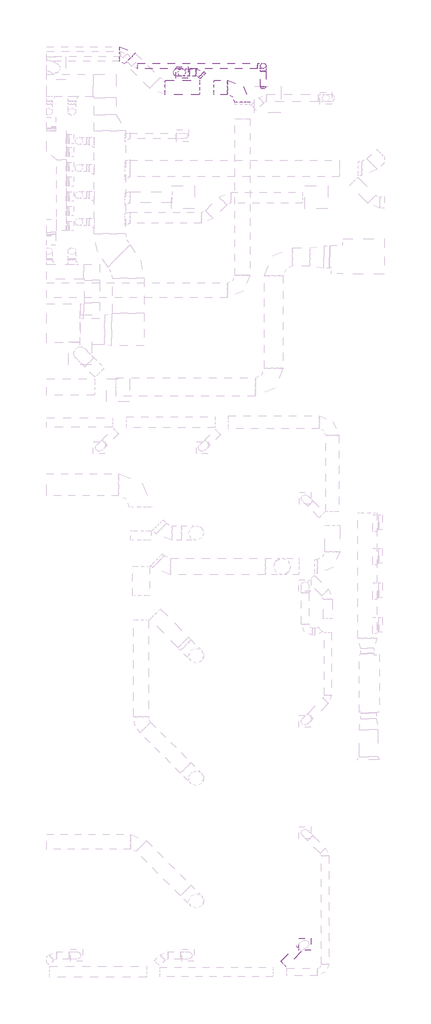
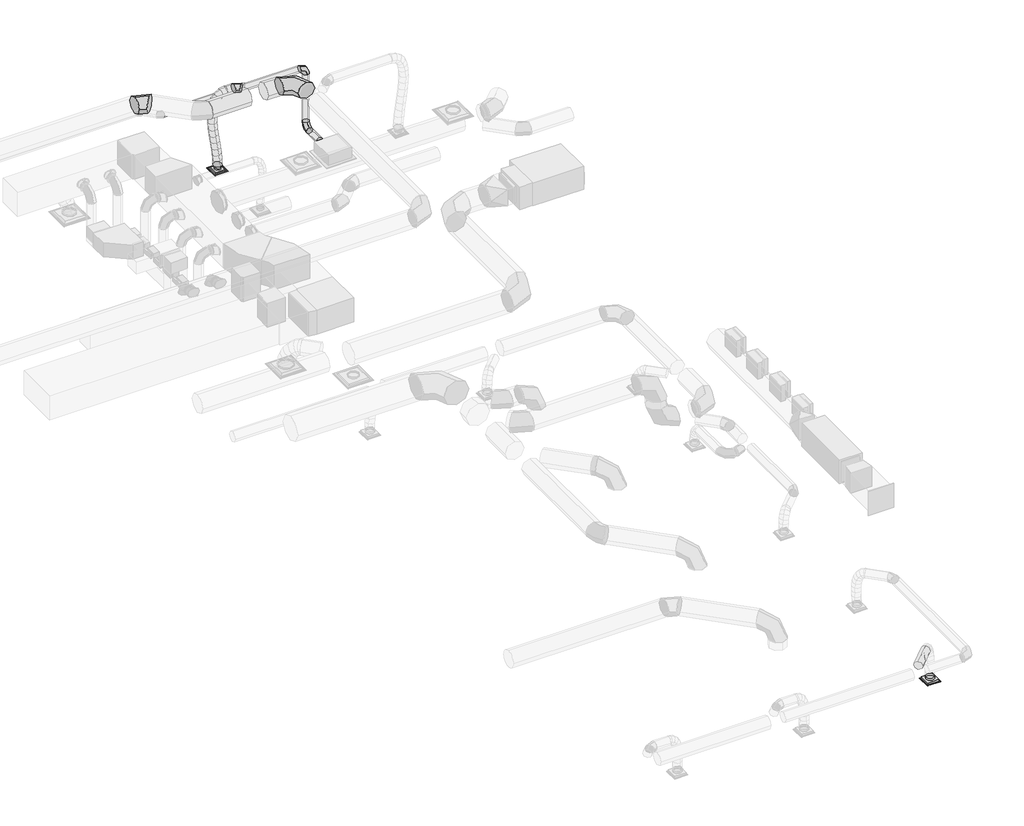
# One storey, part 27 of 33: 9 duct segments, 7 duct fittings, 2 air terminals.
"""IFC4 building model written with IfcOpenShell, lengths in millimetres."""

from ifc_helpers import new_model, si_unit, point, frame, frame_2d, origin, place, context, project, spatial, circle_curve, ellipse_curve, trimmed, segment, composite_curve, outline, extrude, transform, mapped, element, save
from ifc_brep_helpers import plane_surface, cylinder_surface, advanced_brep
from components import air_terminal_0721d01d, par_aa_06_12x12_e7d1e0c0, round_elbow_1_d_8429d56c, round_elbow_1_d_b37ad80b, round_elbow_1_d_30de4f45, round_elbow_1_d_8aca8b6e, round_elbow_1_d_ab3aa7ba, round_transition_angle_45_degree_b304827a, round_transition_angle_45_degree_998e22e1

model = new_model("IFC4")

# Units and contexts
model_context = context("Model", 3, world=origin())
ifc_project = project(units=[si_unit("LENGTHUNIT", "METRE", prefix="MILLI")], contexts=[model_context])

# Site, building, storey
site = spatial("IfcSite", under=ifc_project)
building = spatial("IfcBuilding", under=site)
storey = spatial("IfcBuildingStorey", under=building, Name="T.O. SLAB - 1ST", Elevation=-25.4)

# Air terminals
placement = place(None, origin())
air_terminal_shape = air_terminal_0721d01d(model_context)
element("IfcAirTerminal", 1, ObjectType="Titus-Round_Neck_Supply_Diffuser-PCS_Surface_Mount : PCS AA-08_12x12", at=placement, inside=storey, context=model_context, shape_type="MappedRepresentation", body=[
    mapped(air_terminal_shape, transform((32951.0705131, 6818.4211025, 3022.6), x_axis=(1.0, 0.0, 0.0), y_axis=(0.0, -1.0, 0.0), z_axis=(0.0, 0.0, -1.0))),
])
par_aa_06_12x12_shape = par_aa_06_12x12_e7d1e0c0(model_context)
element("IfcAirTerminal", 2, ObjectType="Titus-Round_Neck_Exhaust_Diffuser-PAR_Surface_Mount : PAR AA-06_12x12", at=placement, inside=storey, context=model_context, shape_type="MappedRepresentation", body=[
    mapped(par_aa_06_12x12_shape, transform((29580.1217487, 30653.2077939, 2717.8), x_axis=(0.0, -1.0, 0.0), y_axis=(-1.0, 0.0, 0.0), z_axis=(0.0, 0.0, -1.0))),
])

# Duct fittings
round_elbow_1_d_shape = round_elbow_1_d_8429d56c(model_context)
element("IfcDuctFitting", 3, ObjectType="Round Elbow : 1 D", at=placement, inside=storey, context=model_context, shape_type="MappedRepresentation", body=[
    mapped(round_elbow_1_d_shape, transform((31805.5472196, 30832.3557308, 2913.3601563), x_axis=(0.0, 0.999999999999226, -1.2442226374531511e-06), y_axis=(0.0, 1.2442226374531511e-06, 0.999999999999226), z_axis=(1.0, 0.0, 0.0))),
])
round_elbow_1_d_2_shape = round_elbow_1_d_b37ad80b(model_context)
element("IfcDuctFitting", 4, ObjectType="Round Elbow : 1 D", at=placement, inside=storey, context=model_context, shape_type="MappedRepresentation", body=[
    mapped(round_elbow_1_d_2_shape, transform((31805.5472196, 30832.3557308, 4437.3601562), x_axis=(0.0, 0.0, 1.0), y_axis=(-1.0, 0.0, 0.0), z_axis=(0.0, -1.0, 0.0))),
])
round_elbow_1_d_3_shape = round_elbow_1_d_30de4f45(model_context)
element("IfcDuctFitting", 5, ObjectType="Round Elbow : 1 D", at=placement, inside=storey, context=model_context, shape_type="MappedRepresentation", body=[
    mapped(round_elbow_1_d_3_shape, transform((28043.3935019, 31157.2807736, 4648.2), x_axis=(-0.7071067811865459, 0.7071067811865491, 0.0), y_axis=(-0.7071067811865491, -0.7071067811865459, 0.0), z_axis=(0.0, 0.0, 1.0))),
])
round_elbow_1_d_4_shape = round_elbow_1_d_8aca8b6e(model_context)
element("IfcDuctFitting", 6, ObjectType="Round Elbow : 1 D", at=placement, inside=storey, context=model_context, shape_type="MappedRepresentation", body=[
    mapped(round_elbow_1_d_4_shape, transform((31236.91547, 30242.4497351, 4648.2), x_axis=(0.0, 1.0, 0.0), y_axis=(-1.0, 0.0, 0.0), z_axis=(0.0, 0.0, 1.0))),
])
round_elbow_1_d_5_shape = round_elbow_1_d_ab3aa7ba(model_context)
element("IfcDuctFitting", 7, ObjectType="Round Elbow : 1 D", at=placement, inside=storey, context=model_context, shape_type="MappedRepresentation", body=[
    mapped(round_elbow_1_d_5_shape, transform((30051.1594246, 30653.2079016, 4648.2), x_axis=(-0.7071067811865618, 0.7071067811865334, 0.0), y_axis=(-0.7071067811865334, -0.7071067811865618, 0.0), z_axis=(0.0, 0.0, 1.0))),
])
round_transition_angle_45_degree_shape = round_transition_angle_45_degree_b304827a(model_context)
element("IfcDuctFitting", 8, ObjectType="Round Transition - Angle : 45 Degree", at=placement, inside=storey, context=model_context, shape_type="MappedRepresentation", body=[
    mapped(round_transition_angle_45_degree_shape, transform((31805.5472196, 30201.4593978, 2913.3607883), x_axis=(0.0, 1.0, 0.0), y_axis=(-1.0, 0.0, 0.0), z_axis=(0.0, 0.0, 1.0))),
])
round_transition_angle_45_degree_2_shape = round_transition_angle_45_degree_998e22e1(model_context)
element("IfcDuctFitting", 9, ObjectType="Round Transition - Angle : 45 Degree", at=placement, inside=storey, context=model_context, shape_type="MappedRepresentation", body=[
    mapped(round_transition_angle_45_degree_2_shape, transform((29580.1217487, 30653.2077939, 2787.65), x_axis=(0.0, 0.0, 1.0), y_axis=(-1.0, 0.0, 0.0), z_axis=(0.0, -1.0, 0.0))),
])

# Duct segments
element("IfcDuctSegment", 10, ObjectType="Flex - Round", at=placement, inside=storey, context=model_context, shape_type="AdvancedBrep", body=[
    advanced_brep(
    [(29783.3215333, 30551.6079016, 4648.2), (29783.3215333, 30653.2079016, 4546.6), (29783.3215333, 30754.8079016, 4648.2), (29783.3215333, 30653.2079016, 4749.8), (29767.8404601, 30551.6079016, 4648.2), (29776.8263527, 30653.2079016, 4546.6), (29767.8404585, 30754.8079016, 4648.2), (29758.8545659, 30653.2079016, 4749.8), (29580.1217579, 30551.6077939, 2848.9710245), (29478.5217487, 30653.2077847, 2848.9710245), (29580.1217395, 30754.8077939, 2848.9710245), (29681.7217487, 30653.2078031, 2848.9710245), (29668.8424118, 30551.6079, 4630.5504057), (29704.3108887, 30653.2079004, 4533.6717803), (29668.8424056, 30754.8079, 4630.5504049), (29633.3739287, 30653.2078996, 4727.4290304), (29582.024721, 30551.6078956, 4580.2077326), (29649.8440845, 30653.2078977, 4502.0883035), (29582.0247092, 30754.8078956, 4580.2077286), (29514.2053457, 30653.2078935, 4658.3271576), (29519.7979044, 30551.6078888, 4501.0811438), (29608.9384838, 30653.2078932, 4450.0734196), (29519.7978892, 30754.8078888, 4501.0811354), (29430.6573097, 30653.2078845, 4552.0888595), (29479.0914064, 30551.6078802, 4397.0798021), (29577.3585362, 30653.2078865, 4369.389571), (29479.0913898, 30754.8078802, 4397.0797902), (29380.82426, 30653.2078739, 4424.7700213), (29456.8346719, 30551.6078702, 4272.1128712), (29558.0011357, 30653.2078778, 4260.7017966), (29456.8346549, 30754.8078702, 4272.1128571), (29355.6681912, 30653.2078625, 4283.5239317), (29449.9571456, 30551.6078592, 4130.089515), (29551.6431994, 30653.2078676, 4129.4081597), (29449.9571286, 30754.8078592, 4130.0894998), (29348.2710747, 30653.2078507, 4130.7708551), (29455.3882719, 30551.6078477, 3974.9188976), (29556.8301046, 30653.2078567, 3981.2150921), (29455.3882549, 30754.8078477, 3974.918882), (29353.9464223, 30653.2078388, 3968.6226875), (29470.0574953, 30551.6078363, 3810.5101829), (29571.1057544, 30653.2078455, 3821.2174444), (29470.0574783, 30754.8078363, 3810.5101674), (29369.0092193, 30653.207827, 3799.8029059), (29490.8942602, 30551.6078253, 3640.7725347), (29591.6333524, 30653.2078347, 3653.9982898), (29490.8942431, 30754.8078253, 3640.7725199), (29390.1551509, 30653.2078158, 3627.5467647), (29514.8280108, 30551.6078152, 3469.6151169), (29615.4336882, 30653.2078247, 3483.7949609), (29514.8279935, 30754.8078152, 3469.6151033), (29414.2223161, 30653.2078057, 3455.4352593), (29538.7881915, 30551.6078066, 3300.9470932), (29639.4706298, 30653.207816, 3314.5865786), (29538.788174, 30754.8078066, 3300.9470814), (29438.1057358, 30653.2077971, 3287.3075961), (29559.7042468, 30551.6077998, 3138.6776275), (29660.6725492, 30653.2078092, 3150.0993415), (29559.7042289, 30754.8077998, 3138.6776183), (29458.7359265, 30653.2077905, 3127.2559044), (29574.5056208, 30551.6077954, 2986.7158834), (29675.8984152, 30653.2078047, 2993.7794521), (29574.5056026, 30754.8077954, 2986.715878), (29473.1128082, 30653.2077862, 2979.6523093), (29580.1217579, 30551.6077939, 2853.1100244), (29681.7217487, 30653.2078031, 2855.2444648), (29580.1217395, 30754.8077939, 2853.1100228), (29478.5217487, 30653.2077847, 2850.9755824)],
    [
        (0, 1, circle_curve(frame((29783.3215333, 30653.2079016, 4648.2), z_axis=(1.0, 0.0, 0.0), x_axis=(0.0, -1.0, 0.0)), 101.6)),
        (1, 2, circle_curve(frame((29783.3215333, 30653.2079016, 4648.2), z_axis=(1.0, 0.0, 0.0), x_axis=(0.0, -1.0, 0.0)), 101.6)),
        (2, 3, circle_curve(frame((29783.3215333, 30653.2079016, 4648.2), z_axis=(1.0, 0.0, 0.0), x_axis=(0.0, -1.0, 0.0)), 101.6)),
        (3, 0, circle_curve(frame((29783.3215333, 30653.2079016, 4648.2), z_axis=(1.0, 0.0, 0.0), x_axis=(0.0, -1.0, 0.0)), 101.6)),
        (0, 4),
        (4, 5, ellipse_curve(frame((29767.8404593, 30653.2079016, 4648.2), z_axis=(0.9961116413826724, 7.836384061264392e-09, 0.08809993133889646), x_axis=(0.08809993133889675, -8.860294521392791e-08, -0.9961116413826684)), 101.9965994, 101.6)),
        (5, 1),
        (5, 6, ellipse_curve(frame((29767.8404593, 30653.2079016, 4648.2), z_axis=(0.9961116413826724, 7.836384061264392e-09, 0.08809993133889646), x_axis=(0.08809993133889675, -8.860294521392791e-08, -0.9961116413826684)), 101.9965994, 101.6)),
        (6, 2),
        (6, 7, ellipse_curve(frame((29767.8404593, 30653.2079016, 4648.2), z_axis=(0.9961116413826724, 7.836384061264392e-09, 0.08809993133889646), x_axis=(0.08809993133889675, -8.860294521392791e-08, -0.9961116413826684)), 101.9965994, 101.6)),
        (7, 3),
        (7, 4, ellipse_curve(frame((29767.8404593, 30653.2079016, 4648.2), z_axis=(0.9961116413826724, 7.836384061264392e-09, 0.08809993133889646), x_axis=(0.08809993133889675, -8.860294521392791e-08, -0.9961116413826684)), 101.9965994, 101.6)),
        (8, 9, circle_curve(frame((29580.1217487, 30653.2077939, 2848.9710245), z_axis=(0.0, 0.0, -1.0), x_axis=(9.039295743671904e-08, -0.9999999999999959, 0.0)), 101.6)),
        (9, 10, circle_curve(frame((29580.1217487, 30653.2077939, 2848.9710245), z_axis=(0.0, 0.0, -1.0), x_axis=(9.039295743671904e-08, -0.9999999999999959, 0.0)), 101.6)),
        (10, 11, circle_curve(frame((29580.1217487, 30653.2077939, 2848.9710245), z_axis=(0.0, 0.0, -1.0), x_axis=(9.039295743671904e-08, -0.9999999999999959, 0.0)), 101.6)),
        (11, 8, circle_curve(frame((29580.1217487, 30653.2077939, 2848.9710245), z_axis=(0.0, 0.0, -1.0), x_axis=(9.039295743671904e-08, -0.9999999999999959, 0.0)), 101.6)),
        (4, 12),
        (12, 13, ellipse_curve(frame((29668.8424087, 30653.2079, 4630.5504053), z_axis=(0.9390443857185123, 3.0164564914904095e-08, 0.3437959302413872), x_axis=(0.3437959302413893, -8.116940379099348e-08, -0.9390443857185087)), 103.167248, 101.6)),
        (13, 5),
        (13, 14, ellipse_curve(frame((29668.8424087, 30653.2079, 4630.5504053), z_axis=(0.9390443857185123, 3.0164564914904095e-08, 0.3437959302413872), x_axis=(0.3437959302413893, -8.116940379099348e-08, -0.9390443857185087)), 103.167248, 101.6)),
        (14, 6),
        (14, 15, ellipse_curve(frame((29668.8424087, 30653.2079, 4630.5504053), z_axis=(0.9390443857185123, 3.0164564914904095e-08, 0.3437959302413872), x_axis=(0.3437959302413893, -8.116940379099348e-08, -0.9390443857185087)), 103.167248, 101.6)),
        (15, 7),
        (15, 12, ellipse_curve(frame((29668.8424087, 30653.2079, 4630.5504053), z_axis=(0.9390443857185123, 3.0164564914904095e-08, 0.3437959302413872), x_axis=(0.3437959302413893, -8.116940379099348e-08, -0.9390443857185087)), 103.167248, 101.6)),
        (12, 16),
        (16, 17, ellipse_curve(frame((29582.0247151, 30653.2078956, 4580.2077306), z_axis=(0.7551344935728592, 5.644086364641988e-08, 0.6555699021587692), x_axis=(0.655569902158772, -6.175684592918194e-08, -0.7551344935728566)), 103.4510113, 101.6)),
        (17, 13),
        (17, 18, ellipse_curve(frame((29582.0247151, 30653.2078956, 4580.2077306), z_axis=(0.7551344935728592, 5.644086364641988e-08, 0.6555699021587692), x_axis=(0.655569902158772, -6.175684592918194e-08, -0.7551344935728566)), 103.4510113, 101.6)),
        (18, 14),
        (18, 19, ellipse_curve(frame((29582.0247151, 30653.2078956, 4580.2077306), z_axis=(0.7551344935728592, 5.644086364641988e-08, 0.6555699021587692), x_axis=(0.655569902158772, -6.175684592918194e-08, -0.7551344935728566)), 103.4510113, 101.6)),
        (19, 15),
        (19, 16, ellipse_curve(frame((29582.0247151, 30653.2078956, 4580.2077306), z_axis=(0.7551344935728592, 5.644086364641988e-08, 0.6555699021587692), x_axis=(0.655569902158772, -6.175684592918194e-08, -0.7551344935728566)), 103.4510113, 101.6)),
        (16, 20),
        (20, 21, ellipse_curve(frame((29519.7978968, 30653.2078888, 4501.0811396), z_axis=(0.4966544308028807, 7.297004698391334e-08, 0.867948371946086), x_axis=(0.8679483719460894, -3.5072129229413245e-08, -0.4966544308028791)), 102.7026375, 101.6)),
        (21, 17),
        (21, 22, ellipse_curve(frame((29519.7978968, 30653.2078888, 4501.0811396), z_axis=(0.4966544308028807, 7.297004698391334e-08, 0.867948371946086), x_axis=(0.8679483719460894, -3.5072129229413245e-08, -0.4966544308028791)), 102.7026375, 101.6)),
        (22, 18),
        (22, 23, ellipse_curve(frame((29519.7978968, 30653.2078888, 4501.0811396), z_axis=(0.4966544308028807, 7.297004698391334e-08, 0.867948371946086), x_axis=(0.8679483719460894, -3.5072129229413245e-08, -0.4966544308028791)), 102.7026375, 101.6)),
        (23, 19),
        (23, 20, ellipse_curve(frame((29519.7978968, 30653.2078888, 4501.0811396), z_axis=(0.4966544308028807, 7.297004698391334e-08, 0.867948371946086), x_axis=(0.8679483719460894, -3.5072129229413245e-08, -0.4966544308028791)), 102.7026375, 101.6)),
        (20, 24),
        (24, 25, ellipse_curve(frame((29479.0913981, 30653.2078802, 4397.0797961), z_axis=(0.2712229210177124, 7.861400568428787e-08, 0.9625165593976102), x_axis=(0.9625165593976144, -9.379406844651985e-09, -0.2712229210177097)), 102.0939714, 101.6)),
        (25, 21),
        (25, 26, ellipse_curve(frame((29479.0913981, 30653.2078802, 4397.0797961), z_axis=(0.2712229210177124, 7.861400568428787e-08, 0.9625165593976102), x_axis=(0.9625165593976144, -9.379406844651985e-09, -0.2712229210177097)), 102.0939714, 101.6)),
        (26, 22),
        (26, 27, ellipse_curve(frame((29479.0913981, 30653.2078802, 4397.0797961), z_axis=(0.2712229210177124, 7.861400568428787e-08, 0.9625165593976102), x_axis=(0.9625165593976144, -9.379406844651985e-09, -0.2712229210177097)), 102.0939714, 101.6)),
        (27, 23),
        (27, 24, ellipse_curve(frame((29479.0913981, 30653.2078802, 4397.0797961), z_axis=(0.2712229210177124, 7.861400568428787e-08, 0.9625165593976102), x_axis=(0.9625165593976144, -9.379406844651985e-09, -0.2712229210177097)), 102.0939714, 101.6)),
        (24, 28),
        (28, 29, ellipse_curve(frame((29456.8346634, 30653.2078702, 4272.1128641), z_axis=(0.11208420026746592, 7.838111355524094e-08, 0.9936987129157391), x_axis=(0.9936987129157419, 1.462221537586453e-08, -0.11208420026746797)), 101.8079936, 101.6)),
        (29, 25),
        (29, 30, ellipse_curve(frame((29456.8346634, 30653.2078702, 4272.1128641), z_axis=(0.11208420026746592, 7.838111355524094e-08, 0.9936987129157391), x_axis=(0.9936987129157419, 1.462221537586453e-08, -0.11208420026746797)), 101.8079936, 101.6)),
        (30, 26),
        (30, 31, ellipse_curve(frame((29456.8346634, 30653.2078702, 4272.1128641), z_axis=(0.11208420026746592, 7.838111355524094e-08, 0.9936987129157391), x_axis=(0.9936987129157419, 1.462221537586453e-08, -0.11208420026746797)), 101.8079936, 101.6)),
        (31, 27),
        (31, 28, ellipse_curve(frame((29456.8346634, 30653.2078702, 4272.1128641), z_axis=(0.11208420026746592, 7.838111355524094e-08, 0.9936987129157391), x_axis=(0.9936987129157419, 1.462221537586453e-08, -0.11208420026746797)), 101.8079936, 101.6)),
        (28, 32),
        (32, 33, ellipse_curve(frame((29449.9571371, 30653.2078592, 4130.0895074), z_axis=(0.00670035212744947, 7.561473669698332e-08, 0.9999775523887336), x_axis=(0.9999775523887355, 4.169728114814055e-08, -0.00670035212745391)), 101.688345, 101.6)),
        (33, 29),
        (33, 34, ellipse_curve(frame((29449.9571371, 30653.2078592, 4130.0895074), z_axis=(0.00670035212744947, 7.561473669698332e-08, 0.9999775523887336), x_axis=(0.9999775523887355, 4.169728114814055e-08, -0.00670035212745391)), 101.688345, 101.6)),
        (34, 30),
        (34, 35, ellipse_curve(frame((29449.9571371, 30653.2078592, 4130.0895074), z_axis=(0.00670035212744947, 7.561473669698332e-08, 0.9999775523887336), x_axis=(0.9999775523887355, 4.169728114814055e-08, -0.00670035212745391)), 101.688345, 101.6)),
        (35, 31),
        (35, 32, ellipse_curve(frame((29449.9571371, 30653.2078592, 4130.0895074), z_axis=(0.00670035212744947, 7.561473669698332e-08, 0.9999775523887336), x_axis=(0.9999775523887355, 4.169728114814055e-08, -0.00670035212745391)), 101.688345, 101.6)),
        (32, 36),
        (36, 37, ellipse_curve(frame((29455.3882634, 30653.2078477, 3974.9188898), z_axis=(-0.06194790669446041, 7.164712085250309e-08, 0.9980793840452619), x_axis=(0.9980793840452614, 8.112952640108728e-08, 0.06194790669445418)), 101.6370469, 101.6)),
        (37, 33),
        (37, 38, ellipse_curve(frame((29455.3882634, 30653.2078477, 3974.9188898), z_axis=(-0.06194790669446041, 7.164712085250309e-08, 0.9980793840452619), x_axis=(0.9980793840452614, 8.112952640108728e-08, 0.06194790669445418)), 101.6370469, 101.6)),
        (38, 34),
        (38, 39, ellipse_curve(frame((29455.3882634, 30653.2078477, 3974.9188898), z_axis=(-0.06194790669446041, 7.164712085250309e-08, 0.9980793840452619), x_axis=(0.9980793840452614, 8.112952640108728e-08, 0.06194790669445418)), 101.6370469, 101.6)),
        (39, 35),
        (39, 36, ellipse_curve(frame((29455.3882634, 30653.2078477, 3974.9188898), z_axis=(-0.06194790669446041, 7.164712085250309e-08, 0.9980793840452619), x_axis=(0.9980793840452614, 8.112952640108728e-08, 0.06194790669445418)), 101.6370469, 101.6)),
        (36, 40),
        (40, 41, ellipse_curve(frame((29470.0574868, 30653.2078363, 3810.5101751), z_axis=(-0.10537202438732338, 6.68550408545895e-08, 0.994432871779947), x_axis=(0.9944328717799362, 1.559133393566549e-07, 0.1053720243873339)), 101.6139655, 101.6)),
        (41, 37),
        (41, 42, ellipse_curve(frame((29470.0574868, 30653.2078363, 3810.5101751), z_axis=(-0.10537202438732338, 6.68550408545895e-08, 0.994432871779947), x_axis=(0.9944328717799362, 1.559133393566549e-07, 0.1053720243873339)), 101.6139655, 101.6)),
        (42, 38),
        (42, 43, ellipse_curve(frame((29470.0574868, 30653.2078363, 3810.5101751), z_axis=(-0.10537202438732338, 6.68550408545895e-08, 0.994432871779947), x_axis=(0.9944328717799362, 1.559133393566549e-07, 0.1053720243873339)), 101.6139655, 101.6)),
        (43, 39),
        (43, 40, ellipse_curve(frame((29470.0574868, 30653.2078363, 3810.5101751), z_axis=(-0.10537202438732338, 6.68550408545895e-08, 0.994432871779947), x_axis=(0.9944328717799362, 1.559133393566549e-07, 0.1053720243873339)), 101.6139655, 101.6)),
        (40, 44),
        (44, 45, ellipse_curve(frame((29490.8942516, 30653.2078253, 3640.7725273), z_axis=(-0.13017024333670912, 6.120130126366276e-08, 0.9914916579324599), x_axis=(0.9914916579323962, 3.648081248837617e-07, 0.13017024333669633)), 101.6035787, 101.6)),
        (45, 41),
        (45, 46, ellipse_curve(frame((29490.8942516, 30653.2078253, 3640.7725273), z_axis=(-0.13017024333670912, 6.120130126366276e-08, 0.9914916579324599), x_axis=(0.9914916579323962, 3.648081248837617e-07, 0.13017024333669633)), 101.6035787, 101.6)),
        (46, 42),
        (46, 47, ellipse_curve(frame((29490.8942516, 30653.2078253, 3640.7725273), z_axis=(-0.13017024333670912, 6.120130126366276e-08, 0.9914916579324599), x_axis=(0.9914916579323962, 3.648081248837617e-07, 0.13017024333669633)), 101.6035787, 101.6)),
        (47, 43),
        (47, 44, ellipse_curve(frame((29490.8942516, 30653.2078253, 3640.7725273), z_axis=(-0.13017024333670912, 6.120130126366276e-08, 0.9914916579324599), x_axis=(0.9914916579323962, 3.648081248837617e-07, 0.13017024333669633)), 101.6035787, 101.6)),
        (44, 48),
        (48, 49, ellipse_curve(frame((29514.8280022, 30653.2078152, 3469.6151101), z_axis=(-0.1395653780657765, 5.441043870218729e-08, 0.9902128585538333), x_axis=(0.9902128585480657, 3.4234223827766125e-06, 0.13956537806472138)), 101.6000602, 101.6)),
        (49, 45),
        (49, 50, ellipse_curve(frame((29514.8280022, 30653.2078152, 3469.6151101), z_axis=(-0.1395653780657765, 5.441043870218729e-08, 0.9902128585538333), x_axis=(0.9902128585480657, 3.4234223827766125e-06, 0.13956537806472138)), 101.6000602, 101.6)),
        (50, 46),
        (50, 51, ellipse_curve(frame((29514.8280022, 30653.2078152, 3469.6151101), z_axis=(-0.1395653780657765, 5.441043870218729e-08, 0.9902128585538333), x_axis=(0.9902128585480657, 3.4234223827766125e-06, 0.13956537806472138)), 101.6000602, 101.6)),
        (51, 47),
        (51, 48, ellipse_curve(frame((29514.8280022, 30653.2078152, 3469.6151101), z_axis=(-0.1395653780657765, 5.441043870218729e-08, 0.9902128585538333), x_axis=(0.9902128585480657, 3.4234223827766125e-06, 0.13956537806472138)), 101.6000602, 101.6)),
        (48, 52),
        (52, 53, ellipse_curve(frame((29538.7881828, 30653.2078066, 3300.9470873), z_axis=(-0.1342441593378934, 4.597272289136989e-08, 0.9909482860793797), x_axis=(-0.9909482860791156, 7.293291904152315e-07, -0.13424415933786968)), 101.6021203, 101.6)),
        (53, 49),
        (53, 54, ellipse_curve(frame((29538.7881828, 30653.2078066, 3300.9470873), z_axis=(-0.1342441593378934, 4.597272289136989e-08, 0.9909482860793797), x_axis=(-0.9909482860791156, 7.293291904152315e-07, -0.13424415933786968)), 101.6021203, 101.6)),
        (54, 50),
        (54, 55, ellipse_curve(frame((29538.7881828, 30653.2078066, 3300.9470873), z_axis=(-0.1342441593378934, 4.597272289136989e-08, 0.9909482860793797), x_axis=(-0.9909482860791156, 7.293291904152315e-07, -0.13424415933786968)), 101.6021203, 101.6)),
        (55, 51),
        (55, 52, ellipse_curve(frame((29538.7881828, 30653.2078066, 3300.9470873), z_axis=(-0.1342441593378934, 4.597272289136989e-08, 0.9909482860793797), x_axis=(-0.9909482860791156, 7.293291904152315e-07, -0.13424415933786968)), 101.6021203, 101.6)),
        (52, 56),
        (56, 57, ellipse_curve(frame((29559.7042379, 30653.2077998, 3138.6776229), z_axis=(-0.11240490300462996, 3.502947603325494e-08, 0.9936624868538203), x_axis=(-0.9936624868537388, 4.010358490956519e-07, -0.11240490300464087)), 101.6122805, 101.6)),
        (57, 53),
        (57, 58, ellipse_curve(frame((29559.7042379, 30653.2077998, 3138.6776229), z_axis=(-0.11240490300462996, 3.502947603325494e-08, 0.9936624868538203), x_axis=(-0.9936624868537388, 4.010358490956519e-07, -0.11240490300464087)), 101.6122805, 101.6)),
        (58, 54),
        (58, 59, ellipse_curve(frame((29559.7042379, 30653.2077998, 3138.6776229), z_axis=(-0.11240490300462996, 3.502947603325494e-08, 0.9936624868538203), x_axis=(-0.9936624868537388, 4.010358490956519e-07, -0.11240490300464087)), 101.6122805, 101.6)),
        (59, 55),
        (59, 56, ellipse_curve(frame((29559.7042379, 30653.2077998, 3138.6776229), z_axis=(-0.11240490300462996, 3.502947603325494e-08, 0.9936624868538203), x_axis=(-0.9936624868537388, 4.010358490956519e-07, -0.11240490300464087)), 101.6122805, 101.6)),
        (56, 60),
        (60, 61, ellipse_curve(frame((29574.5056117, 30653.2077954, 2986.7158807), z_axis=(-0.06949697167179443, 2.0272902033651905e-08, 0.9975821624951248), x_axis=(-0.9975821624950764, 3.095687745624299e-07, -0.06949697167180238)), 101.638549, 101.6)),
        (61, 57),
        (61, 62, ellipse_curve(frame((29574.5056117, 30653.2077954, 2986.7158807), z_axis=(-0.06949697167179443, 2.0272902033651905e-08, 0.9975821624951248), x_axis=(-0.9975821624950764, 3.095687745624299e-07, -0.06949697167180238)), 101.638549, 101.6)),
        (62, 58),
        (62, 63, ellipse_curve(frame((29574.5056117, 30653.2077954, 2986.7158807), z_axis=(-0.06949697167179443, 2.0272902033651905e-08, 0.9975821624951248), x_axis=(-0.9975821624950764, 3.095687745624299e-07, -0.06949697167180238)), 101.638549, 101.6)),
        (63, 59),
        (63, 60, ellipse_curve(frame((29574.5056117, 30653.2077954, 2986.7158807), z_axis=(-0.06949697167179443, 2.0272902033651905e-08, 0.9975821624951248), x_axis=(-0.9975821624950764, 3.095687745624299e-07, -0.06949697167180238)), 101.638549, 101.6)),
        (60, 64),
        (64, 65, ellipse_curve(frame((29580.1217487, 30653.2077939, 2853.1100236), z_axis=(-0.021003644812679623, 5.8712672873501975e-09, 0.9997793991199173), x_axis=(-0.999779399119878, 2.7947397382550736e-07, -0.021003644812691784)), 101.622418, 101.6)),
        (65, 61),
        (65, 66, ellipse_curve(frame((29580.1217487, 30653.2077939, 2853.1100236), z_axis=(-0.021003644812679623, 5.8712672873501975e-09, 0.9997793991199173), x_axis=(-0.999779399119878, 2.7947397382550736e-07, -0.021003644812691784)), 101.622418, 101.6)),
        (66, 62),
        (66, 67, ellipse_curve(frame((29580.1217487, 30653.2077939, 2853.1100236), z_axis=(-0.021003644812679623, 5.8712672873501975e-09, 0.9997793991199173), x_axis=(-0.999779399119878, 2.7947397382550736e-07, -0.021003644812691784)), 101.622418, 101.6)),
        (67, 63),
        (67, 64, ellipse_curve(frame((29580.1217487, 30653.2077939, 2853.1100236), z_axis=(-0.021003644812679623, 5.8712672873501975e-09, 0.9997793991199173), x_axis=(-0.999779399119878, 2.7947397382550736e-07, -0.021003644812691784)), 101.622418, 101.6)),
        (64, 8),
        (11, 65),
        (10, 66),
        (9, 67),
    ],
    [
        plane_surface(frame((29783.3215333, 30653.2079016, 4546.6), z_axis=(1.0, 0.0, 0.0), x_axis=(0.0, -1.0, 0.0))),
        cylinder_surface(frame((29783.3215333, 30653.2079016, 4648.2), z_axis=(1.0, 0.0, 0.0), x_axis=(0.0, -1.0, 0.0)), 101.6),
        plane_surface(frame((29580.1217487, 30551.6077939, 2848.9710245), z_axis=(0.0, 0.0, -1.0), x_axis=(-1.0, 0.0, 0.0))),
        cylinder_surface(frame((29767.8404593, 30653.2079016, 4648.2), z_axis=(0.9844768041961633, 1.561182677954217e-08, 0.17551473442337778), x_axis=(1.561182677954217e-08, -0.9999999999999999, 1.3807697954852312e-09)), 101.6),
        cylinder_surface(frame((29668.8424087, 30653.2079, 4630.5504053), z_axis=(0.8650812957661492, 4.380082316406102e-08, 0.5016316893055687), x_axis=(4.383886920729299e-08, -0.999999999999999, 1.1715044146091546e-08)), 101.6),
        cylinder_surface(frame((29582.0247151, 30653.2078956, 4580.2077306), z_axis=(0.618164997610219, 6.706115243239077e-08, 0.7860483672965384), x_axis=(6.74845330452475e-08, -0.9999999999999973, 3.224302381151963e-08)), 101.6),
        cylinder_surface(frame((29519.7978968, 30653.2078888, 4501.0811396), z_axis=(0.36447948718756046, 7.731209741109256e-08, 0.9312114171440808), x_axis=(7.887607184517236e-08, -0.9999999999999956, 5.215076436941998e-08)), 101.6),
        cylinder_surface(frame((29479.0913981, 30653.2078802, 4397.0797961), z_axis=(0.17534178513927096, 7.915518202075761e-08, 0.9845076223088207), x_axis=(8.268677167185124e-08, -0.9999999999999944, 6.567418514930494e-08)), 101.6),
        cylinder_surface(frame((29456.8346634, 30653.2078702, 4272.1128641), z_axis=(0.048368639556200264, 7.72867800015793e-08, 0.9988295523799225), x_axis=(8.355046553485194e-08, -0.9999999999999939, 7.333138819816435e-08)), 101.6),
        cylinder_surface(frame((29449.9571371, 30653.2078592, 4130.0895074), z_axis=(-0.03497957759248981, 7.381130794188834e-08, 0.9993880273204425), x_axis=(8.357358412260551e-08, -0.9999999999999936, 7.678166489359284e-08)), 101.6),
        cylinder_surface(frame((29455.3882634, 30653.2078477, 3974.9188898), z_axis=(-0.08887107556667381, 6.943070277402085e-08, 0.9960431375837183), x_axis=(8.355002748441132e-08, -0.9999999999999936, 7.716119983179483e-08)), 101.6),
        cylinder_surface(frame((29470.0574868, 30653.2078363, 3810.5101751), z_axis=(-0.1218440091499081, 6.426100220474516e-08, 0.9925492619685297), x_axis=(8.377610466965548e-08, -0.9999999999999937, 7.502762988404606e-08)), 101.6),
        cylinder_surface(frame((29490.8942516, 30653.2078253, 3640.7725273), z_axis=(-0.13848730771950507, 5.8137289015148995e-08, 0.9903642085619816), x_axis=(8.437041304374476e-08, -0.999999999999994, 7.050085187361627e-08)), 101.6),
        cylinder_surface(frame((29514.8280022, 30653.2078152, 3469.6151101), z_axis=(-0.14064328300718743, 5.068352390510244e-08, 0.9900603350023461), x_axis=(8.538232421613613e-08, -0.9999999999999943, 6.332136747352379e-08)), 101.6),
        cylinder_surface(frame((29538.7881828, 30653.2078066, 3300.9470873), z_axis=(-0.1278394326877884, 4.126000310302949e-08, 0.9917948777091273), x_axis=(8.680890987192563e-08, -0.9999999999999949, 5.279075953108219e-08)), 101.6),
        cylinder_surface(frame((29559.7042379, 30653.2077998, 3138.6776229), z_axis=(-0.0969432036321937, 2.8790481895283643e-08, 0.9952899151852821), x_axis=(8.853297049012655e-08, -0.9999999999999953, 3.7550015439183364e-08)), 101.6),
        cylinder_surface(frame((29574.5056117, 30653.2077954, 2986.7158807), z_axis=(-0.04199802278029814, 1.1739944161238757e-08, 0.9991176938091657), x_axis=(9.006656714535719e-08, -0.9999999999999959, 1.5536269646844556e-08)), 101.6),
        cylinder_surface(frame((29580.1217487, 30653.2077939, 2853.1100236), z_axis=(0.0, 0.0, 1.0), x_axis=(9.039295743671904e-08, -0.9999999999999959, 0.0)), 101.6),
    ],
    [
        (0, [[1, 2, 3, 4]]),
        (1, [[-1, 5, 6, 7]]),
        (1, [[-2, -7, 8, 9]]),
        (1, [[-3, -9, 10, 11]]),
        (1, [[-4, -11, 12, -5]]),
        (2, [[13, 14, 15, 16]]),
        (3, [[-6, 17, 18, 19]]),
        (3, [[-8, -19, 20, 21]]),
        (3, [[-10, -21, 22, 23]]),
        (3, [[-12, -23, 24, -17]]),
        (4, [[-18, 25, 26, 27]]),
        (4, [[-20, -27, 28, 29]]),
        (4, [[-22, -29, 30, 31]]),
        (4, [[-24, -31, 32, -25]]),
        (5, [[-26, 33, 34, 35]]),
        (5, [[-28, -35, 36, 37]]),
        (5, [[-30, -37, 38, 39]]),
        (5, [[-32, -39, 40, -33]]),
        (6, [[-34, 41, 42, 43]]),
        (6, [[-36, -43, 44, 45]]),
        (6, [[-38, -45, 46, 47]]),
        (6, [[-40, -47, 48, -41]]),
        (7, [[-42, 49, 50, 51]]),
        (7, [[-44, -51, 52, 53]]),
        (7, [[-46, -53, 54, 55]]),
        (7, [[-48, -55, 56, -49]]),
        (8, [[-50, 57, 58, 59]]),
        (8, [[-52, -59, 60, 61]]),
        (8, [[-54, -61, 62, 63]]),
        (8, [[-56, -63, 64, -57]]),
        (9, [[-58, 65, 66, 67]]),
        (9, [[-60, -67, 68, 69]]),
        (9, [[-62, -69, 70, 71]]),
        (9, [[-64, -71, 72, -65]]),
        (10, [[-66, 73, 74, 75]]),
        (10, [[-68, -75, 76, 77]]),
        (10, [[-70, -77, 78, 79]]),
        (10, [[-72, -79, 80, -73]]),
        (11, [[-74, 81, 82, 83]]),
        (11, [[-76, -83, 84, 85]]),
        (11, [[-78, -85, 86, 87]]),
        (11, [[-80, -87, 88, -81]]),
        (12, [[-82, 89, 90, 91]]),
        (12, [[-84, -91, 92, 93]]),
        (12, [[-86, -93, 94, 95]]),
        (12, [[-88, -95, 96, -89]]),
        (13, [[-90, 97, 98, 99]]),
        (13, [[-92, -99, 100, 101]]),
        (13, [[-94, -101, 102, 103]]),
        (13, [[-96, -103, 104, -97]]),
        (14, [[-98, 105, 106, 107]]),
        (14, [[-100, -107, 108, 109]]),
        (14, [[-102, -109, 110, 111]]),
        (14, [[-104, -111, 112, -105]]),
        (15, [[-106, 113, 114, 115]]),
        (15, [[-108, -115, 116, 117]]),
        (15, [[-110, -117, 118, 119]]),
        (15, [[-112, -119, 120, -113]]),
        (16, [[-114, 121, 122, 123]]),
        (16, [[-116, -123, 124, 125]]),
        (16, [[-118, -125, 126, 127]]),
        (16, [[-120, -127, 128, -121]]),
        (17, [[-122, 129, -16, 130]]),
        (17, [[-124, -130, -15, 131]]),
        (17, [[-126, -131, -14, 132]]),
        (17, [[-128, -132, -13, -129]]),
    ],
),
])
element("IfcDuctSegment", 11, ObjectType="Taps", at=placement, inside=storey, context=model_context, shape_type="SweptSolid", body=[
    extrude(outline(composite_curve([segment(trimmed(circle_curve(frame_2d((0.0, 101.6)), 101.6), [point((101.6, 101.6))], [point((0.0, 0.0))], False, "CARTESIAN"), True, "CONTINUOUS"), segment(trimmed(circle_curve(frame_2d((0.0, 101.6)), 101.6), [point((0.0, 0.0))], [point((-101.6, 101.6))], False, "CARTESIAN"), True, "CONTINUOUS"), segment(trimmed(circle_curve(frame_2d((0.0, 101.6)), 101.6), [point((-101.6, 101.6))], [point((0.0, 203.2))], False, "CARTESIAN"), True, "CONTINUOUS"), segment(trimmed(circle_curve(frame_2d((0.0, 101.6)), 101.6), [point((0.0, 203.2))], [point((101.6, 101.6))], False, "CARTESIAN"), True, "CONTINUOUS")], self_intersect=False)), frame((32362.0550175, 6280.2056667, 4013.2), z_axis=(0.7071067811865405, 0.7071067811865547, 0.0), x_axis=(0.7071067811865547, -0.7071067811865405, 0.0)), (0.0, 0.0, 1.0), 593.8728509),
])
element("IfcDuctSegment", 12, ObjectType="Taps", at=placement, inside=storey, context=model_context, shape_type="SweptSolid", body=[
    extrude(outline(composite_curve([segment(trimmed(circle_curve(frame_2d((30242.4497351, 4648.2)), 203.2), [point((30039.2497351, 4648.2))], [point((30242.4497351, 4851.4))], False, "CARTESIAN"), True, "CONTINUOUS"), segment(trimmed(circle_curve(frame_2d((30242.4497351, 4648.2)), 203.2), [point((30242.4497351, 4851.4))], [point((30445.6497351, 4648.2))], False, "CARTESIAN"), True, "CONTINUOUS"), segment(trimmed(circle_curve(frame_2d((30242.4497351, 4648.2)), 203.2), [point((30445.6497351, 4648.2))], [point((30242.4497351, 4445.0))], False, "CARTESIAN"), True, "CONTINUOUS"), segment(trimmed(circle_curve(frame_2d((30242.4497351, 4648.2)), 203.2), [point((30242.4497351, 4445.0))], [point((30039.2497351, 4648.2))], False, "CARTESIAN"), True, "CONTINUOUS")], self_intersect=False)), frame((30453.2016889, 0.0, 0.0), z_axis=(1.0, 0.0, 0.0), x_axis=(0.0, 1.0, 0.0)), (0.0, 0.0, 1.0), 377.313781),
])
element("IfcDuctSegment", 13, ObjectType="Taps", at=placement, inside=storey, context=model_context, shape_type="SweptSolid", body=[
    extrude(outline(composite_curve([segment(trimmed(circle_curve(frame_2d((30242.4497351, 4648.2)), 203.2), [point((30039.2497351, 4648.2))], [point((30242.4497351, 4851.4))], False, "CARTESIAN"), True, "CONTINUOUS"), segment(trimmed(circle_curve(frame_2d((30242.4497351, 4648.2)), 203.2), [point((30242.4497351, 4851.4))], [point((30445.6497351, 4648.2))], False, "CARTESIAN"), True, "CONTINUOUS"), segment(trimmed(circle_curve(frame_2d((30242.4497351, 4648.2)), 203.2), [point((30445.6497351, 4648.2))], [point((30242.4497351, 4445.0))], False, "CARTESIAN"), True, "CONTINUOUS"), segment(trimmed(circle_curve(frame_2d((30242.4497351, 4648.2)), 203.2), [point((30242.4497351, 4445.0))], [point((30039.2497351, 4648.2))], False, "CARTESIAN"), True, "CONTINUOUS")], self_intersect=False)), frame((29126.5609321, 0.0, 0.0), z_axis=(1.0, 0.0, 0.0), x_axis=(0.0, 1.0, 0.0)), (0.0, 0.0, 1.0), 937.6725609),
])
element("IfcDuctSegment", 14, ObjectType="Taps", at=placement, inside=storey, context=model_context, shape_type="SweptSolid", body=[
    extrude(outline(composite_curve([segment(trimmed(circle_curve(frame_2d((0.0, 101.6)), 101.6), [point((101.6, 101.6))], [point((0.0, 0.0))], False, "CARTESIAN"), True, "CONTINUOUS"), segment(trimmed(circle_curve(frame_2d((0.0, 101.6)), 101.6), [point((0.0, 0.0))], [point((-101.6, 101.6))], False, "CARTESIAN"), True, "CONTINUOUS"), segment(trimmed(circle_curve(frame_2d((0.0, 101.6)), 101.6), [point((-101.6, 101.6))], [point((0.0, 203.2))], False, "CARTESIAN"), True, "CONTINUOUS"), segment(trimmed(circle_curve(frame_2d((0.0, 101.6)), 101.6), [point((0.0, 203.2))], [point((101.6, 101.6))], False, "CARTESIAN"), True, "CONTINUOUS")], self_intersect=False)), frame((30150.9545175, 30553.4128086, 4749.8), z_axis=(-0.7071067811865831, 0.707106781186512, 0.0), x_axis=(0.707106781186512, 0.7071067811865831, 0.0)), (0.0, 0.0, 1.0), 56.9633781),
])
element("IfcDuctSegment", 15, ObjectType="Taps", at=placement, inside=storey, context=model_context, shape_type="SweptSolid", body=[
    extrude(outline(composite_curve([segment(trimmed(circle_curve(frame_2d((30653.2079016, 4648.2)), 101.6), [point((30754.8079016, 4648.2))], [point((30653.2079016, 4546.6))], False, "CARTESIAN"), True, "CONTINUOUS"), segment(trimmed(circle_curve(frame_2d((30653.2079016, 4648.2)), 101.6), [point((30653.2079016, 4546.6))], [point((30551.6079016, 4648.2))], False, "CARTESIAN"), True, "CONTINUOUS"), segment(trimmed(circle_curve(frame_2d((30653.2079016, 4648.2)), 101.6), [point((30551.6079016, 4648.2))], [point((30653.2079016, 4749.8))], False, "CARTESIAN"), True, "CONTINUOUS"), segment(trimmed(circle_curve(frame_2d((30653.2079016, 4648.2)), 101.6), [point((30653.2079016, 4749.8))], [point((30754.8079016, 4648.2))], False, "CARTESIAN"), True, "CONTINUOUS")], self_intersect=False)), frame((29783.3215333, 0.0, 0.0), z_axis=(1.0, 0.0, 0.0), x_axis=(0.0, 1.0, 0.0)), (0.0, 0.0, 1.0), 183.6696954),
])
element("IfcDuctSegment", 16, ObjectType="Taps", at=placement, inside=storey, context=model_context, shape_type="SweptSolid", body=[
    extrude(outline(composite_curve([segment(trimmed(circle_curve(frame_2d((2913.3610325, 31805.5472196)), 76.2), [point((2913.3610325, 31881.7472196))], [point((2989.5610325, 31805.5472196))], False, "CARTESIAN"), True, "CONTINUOUS"), segment(trimmed(circle_curve(frame_2d((2913.3610325, 31805.5472196)), 76.2), [point((2989.5610325, 31805.5472196))], [point((2913.3610325, 31729.3472196))], False, "CARTESIAN"), True, "CONTINUOUS"), segment(trimmed(circle_curve(frame_2d((2913.3610325, 31805.5472196)), 76.2), [point((2913.3610325, 31729.3472196))], [point((2837.1610325, 31805.5472196))], False, "CARTESIAN"), True, "CONTINUOUS"), segment(trimmed(circle_curve(frame_2d((2913.3610325, 31805.5472196)), 76.2), [point((2837.1610325, 31805.5472196))], [point((2913.3610325, 31881.7472196))], False, "CARTESIAN"), True, "CONTINUOUS")], self_intersect=False)), frame((0.0, 30266.6129863, 0.0), z_axis=(0.0, 1.0, 0.0), x_axis=(0.0, 0.0, 1.0)), (0.0, 0.0, 1.0), 413.3425549),
])
element("IfcDuctSegment", 17, ObjectType="Taps", at=placement, inside=storey, context=model_context, shape_type="SweptSolid", body=[
    extrude(outline(composite_curve([segment(trimmed(circle_curve(frame_2d((30832.3557308, 4437.3601563)), 76.2), [point((30908.5557308, 4437.3601563))], [point((30832.3557308, 4361.1601563))], False, "CARTESIAN"), True, "CONTINUOUS"), segment(trimmed(circle_curve(frame_2d((30832.3557308, 4437.3601563)), 76.2), [point((30832.3557308, 4361.1601563))], [point((30756.1557308, 4437.3601563))], False, "CARTESIAN"), True, "CONTINUOUS"), segment(trimmed(circle_curve(frame_2d((30832.3557308, 4437.3601563)), 76.2), [point((30756.1557308, 4437.3601563))], [point((30832.3557308, 4513.5601563))], False, "CARTESIAN"), True, "CONTINUOUS"), segment(trimmed(circle_curve(frame_2d((30832.3557308, 4437.3601563)), 76.2), [point((30832.3557308, 4513.5601563))], [point((30908.5557308, 4437.3601563))], False, "CARTESIAN"), True, "CONTINUOUS")], self_intersect=False)), frame((28370.2211209, 0.0, 0.0), z_axis=(1.0, 0.0, 0.0), x_axis=(0.0, 1.0, 0.0)), (0.0, 0.0, 1.0), 3282.9260986),
])
element("IfcDuctSegment", 18, ObjectType="Taps", at=placement, inside=storey, context=model_context, shape_type="SweptSolid", body=[
    extrude(outline(composite_curve([segment(trimmed(circle_curve(frame_2d((31805.5472196, 30832.3557308)), 76.2), [point((31805.5472196, 30908.5557308))], [point((31881.7472196, 30832.3557308))], False, "CARTESIAN"), True, "CONTINUOUS"), segment(trimmed(circle_curve(frame_2d((31805.5472196, 30832.3557308)), 76.2), [point((31881.7472196, 30832.3557308))], [point((31805.5472196, 30756.1557308))], False, "CARTESIAN"), True, "CONTINUOUS"), segment(trimmed(circle_curve(frame_2d((31805.5472196, 30832.3557308)), 76.2), [point((31805.5472196, 30756.1557308))], [point((31729.3472196, 30832.3557308))], False, "CARTESIAN"), True, "CONTINUOUS"), segment(trimmed(circle_curve(frame_2d((31805.5472196, 30832.3557308)), 76.2), [point((31729.3472196, 30832.3557308))], [point((31805.5472196, 30908.5557308))], False, "CARTESIAN"), True, "CONTINUOUS")], self_intersect=False)), frame((0.0, 0.0, 3065.7603459), z_axis=(0.0, 0.0, 1.0), x_axis=(1.0, 0.0, 0.0)), (0.0, 0.0, 1.0), 1219.1998104),
])

save(model, "model.ifc")
